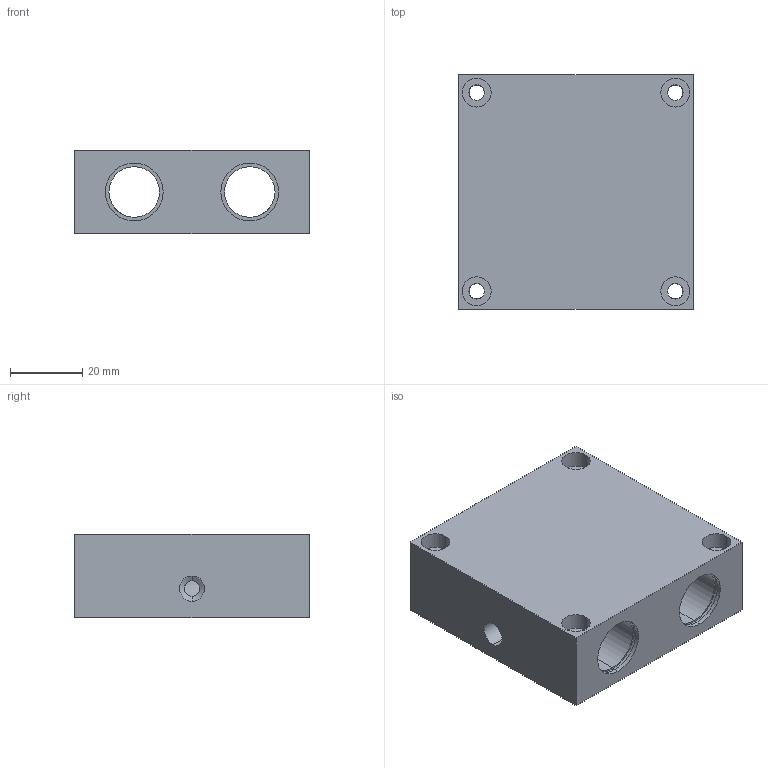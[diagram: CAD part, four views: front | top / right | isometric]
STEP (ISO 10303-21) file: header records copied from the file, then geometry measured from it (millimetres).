
FILE_DESCRIPTION (( 'STEP AP214' ), '1' );
FILE_NAME ('KQSG-08.step', '2020-03-04T13:32:55', ( '' ), ( '' ), 'SwSTEP 2.0', 'SolidWorks 2019', '' );
FILE_SCHEMA (( 'AUTOMOTIVE_DESIGN' ));
Length unit declared in the file: millimetre
Products named in the file (1): KQSG-08
Bounding box: 65 x 65 x 23 mm (x, y, z)
Volume: 69234.6 mm3; surface area: 22112.8 mm2
Topology: 1 solids, 1 shells, 96 faces, 210 edges, 135 vertices
Faces by surface type: cylinder 62, plane 26, cone 8
Entity records: 2974 total; most frequent: CARTESIAN_POINT 558, DIRECTION 520, ORIENTED_EDGE 416, AXIS2_PLACEMENT_3D 219, EDGE_CURVE 208, VERTEX_POINT 135, EDGE_LOOP 133, CIRCLE 122
